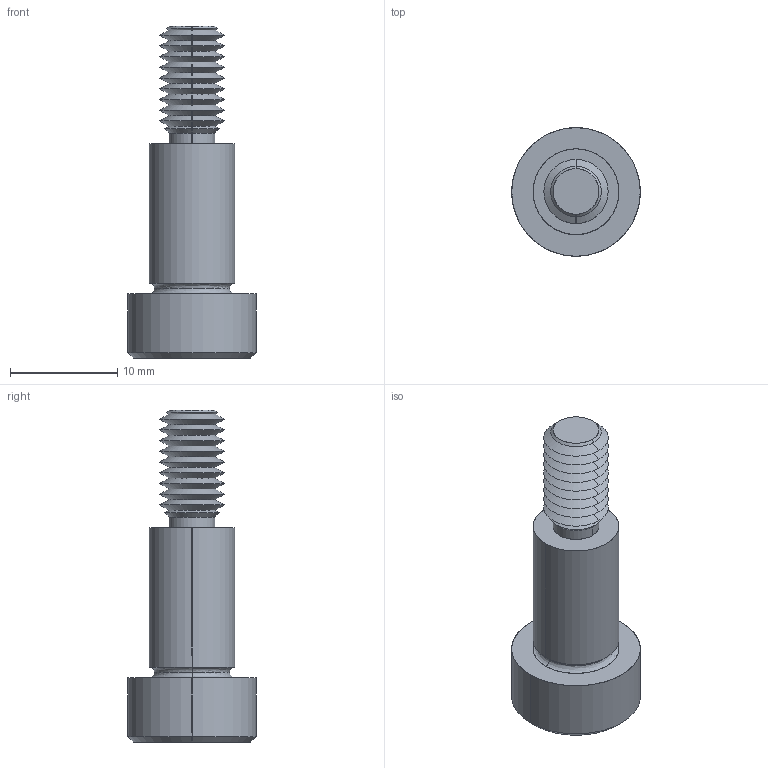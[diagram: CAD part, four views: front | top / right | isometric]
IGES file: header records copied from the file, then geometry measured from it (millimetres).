
Start section: SolidWorks IGES file using analytic representation for surfaces
Global section: file name: C:\Users\IanO\Documents\Temp Folder\GENERAL\SCREW REVISION\P0130_v2\P0130.T5_v2_20220106_IGES\P0130.080-014-T5.igs; native system: SolidWorks 2019; preprocessor: SolidWorks 2019; author: IanO; date: 220106.223255; units: millimetre
Bounding box: 12 x 12 x 31 mm (x, y, z)
Surface area: 1188.1 mm2 (no closed solid volume)
Topology: 0 solids, 0 shells, 80 faces, 580 edges, 578 vertices
Faces by surface type: revolution 60, bspline 20
